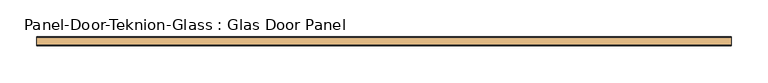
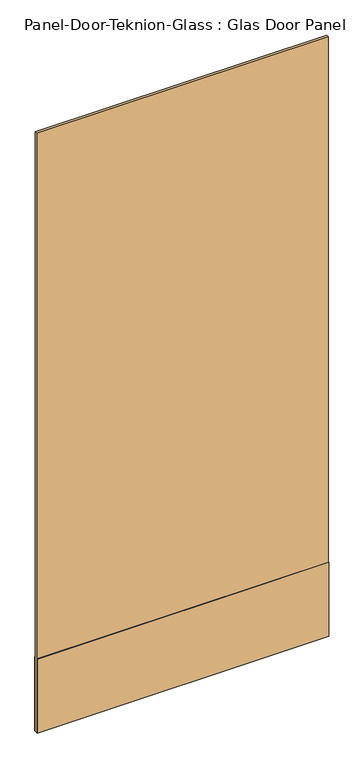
"""IFC4 building model written with IfcOpenShell, lengths in millimetres: door geometry, Panel-Door-Teknion-Glass : Glas Door Panel."""

import ifcopenshell
import ifcopenshell.guid

model = None  # the IFC model being written
_history = None  # IfcOwnerHistory: only IFC2X3 demands one
_inside = {}  # id of a spatial element -> (the spatial element, [elements in it])
_under = {}  # id of a project, library or spatial element -> (it, [spatial elements below it])
_declared = {}  # id of a project -> (the project, [libraries it declares])
_typed = {}  # id of a type object -> (the type object, [elements of that type])
_made_of = {}  # id of a material, layer set ... -> (it, [elements and type objects made of it])


def new_model(schema):
    """Start an empty IFC model of exactly this schema.

    Asked for "IFC4X3", IfcOpenShell would pick the latest addendum, in which some entities
    have other attributes; the version numbers below select the first issue.
    IFC2X3 requires an IfcOwnerHistory on every rooted entity: one is made here for all.
    """
    global model, _history
    if schema == "IFC4X3":
        model = ifcopenshell.file(schema_version=(4, 3, 0, 0))
    else:
        model = ifcopenshell.file(schema=schema)
    _inside.clear()
    _under.clear()
    _declared.clear()
    _typed.clear()
    _made_of.clear()
    _history = None
    if model.schema == "IFC2X3":
        org = make("IfcOrganization", Name="unknown")
        user = make(
            "IfcPersonAndOrganization",
            ThePerson=make("IfcPerson", FamilyName="unknown"),
            TheOrganization=org,
        )
        app = make(
            "IfcApplication",
            ApplicationDeveloper=org,
            Version="unknown",
            ApplicationFullName="unknown",
            ApplicationIdentifier="unknown",
        )
        _history = make(
            "IfcOwnerHistory",
            OwningUser=user,
            OwningApplication=app,
            ChangeAction="ADDED",
            CreationDate=0,
        )
    return model


def make(cls, **values):
    """One entity of the class cls with the attributes given. An attribute that is None is left unset."""
    return model.create_entity(
        cls, **{name: value for name, value in values.items() if value is not None}
    )


def rooted(cls, **values):
    """An entity with a GlobalId (a new one), such as an element, a storey or a relation."""
    return make(cls, GlobalId=ifcopenshell.guid.new(), OwnerHistory=_history, **values)


def si_unit(unit_type, name, prefix=None):
    """IfcSIUnit, for example si_unit("LENGTHUNIT", "METRE", prefix="MILLI")."""
    return make("IfcSIUnit", UnitType=unit_type, Prefix=prefix, Name=name)


def assignment(units):
    """IfcUnitAssignment: the units of a project."""
    return None if units is None else make("IfcUnitAssignment", Units=units)


def point(xyz):
    """IfcCartesianPoint."""
    return None if xyz is None else make("IfcCartesianPoint", Coordinates=xyz)


def direction(xyz):
    """IfcDirection."""
    return None if xyz is None else make("IfcDirection", DirectionRatios=xyz)


def frame(location, z_axis=None, x_axis=None):
    """IfcAxis2Placement3D, a coordinate frame: its origin and axes. An axis left out is left unset."""
    return make(
        "IfcAxis2Placement3D",
        Location=point(location),
        Axis=direction(z_axis),
        RefDirection=direction(x_axis),
    )


def origin():
    """The frame at (0, 0, 0) with its axes left unset."""
    return frame((0.0, 0.0, 0.0))


def place(relative_to, where):
    """IfcLocalPlacement: puts the frame where relative to a parent placement (None: the world)."""
    return make(
        "IfcLocalPlacement", PlacementRelTo=relative_to, RelativePlacement=where
    )


def context(
    kind, dimensions, precision=None, world=None, true_north=None, identifier=None
):
    """IfcGeometricRepresentationContext, for example the 3D "Model" context."""
    return make(
        "IfcGeometricRepresentationContext",
        ContextIdentifier=identifier,
        ContextType=kind,
        CoordinateSpaceDimension=dimensions,
        Precision=precision,
        WorldCoordinateSystem=world,
        TrueNorth=true_north,
    )


def project(units=None, contexts=None):
    """IfcProject with its units and contexts."""
    return rooted(
        "IfcProject",
        Name="project",
        RepresentationContexts=contexts,
        UnitsInContext=assignment(units),
    )


def spatial(cls, under=None, at=None, **own):
    """A site, building, storey or space (cls), placed at a placement, below another one or the project."""
    s = rooted(cls, ObjectPlacement=at, **own)
    if under is not None:
        _under.setdefault(under.id(), (under, []))[1].append(s)
    return s


def polyline(points):
    """IfcPolyline through the points."""
    return make("IfcPolyline", Points=[point(p) for p in points])


def outline(outer, holes=None, kind="AREA"):
    """IfcArbitraryClosedProfileDef: a profile drawn as a closed curve; with holes, ...WithVoids."""
    if holes is None:
        return make("IfcArbitraryClosedProfileDef", ProfileType=kind, OuterCurve=outer)
    return make(
        "IfcArbitraryProfileDefWithVoids",
        ProfileType=kind,
        OuterCurve=outer,
        InnerCurves=holes,
    )


def extrude(swept, where, along, depth):
    """IfcExtrudedAreaSolid: the profile swept, set in the frame where, extruded along a direction by depth."""
    return make(
        "IfcExtrudedAreaSolid",
        SweptArea=swept,
        Position=where,
        ExtrudedDirection=direction(along),
        Depth=depth,
    )


def shape(context_of_items, identifier, shape_type, items):
    """IfcShapeRepresentation: the items that make up one representation, for example the "Body"."""
    return make(
        "IfcShapeRepresentation",
        ContextOfItems=context_of_items,
        RepresentationIdentifier=identifier,
        RepresentationType=shape_type,
        Items=items,
    )


def source(mapping_origin, context_of_items, identifier, shape_type, items):
    """IfcRepresentationMap: a shape defined once, which mapped items show again and again."""
    return make(
        "IfcRepresentationMap",
        MappingOrigin=mapping_origin,
        MappedRepresentation=shape(context_of_items, identifier, shape_type, items),
    )


def transform(
    local_origin,
    x_axis=None,
    y_axis=None,
    z_axis=None,
    scale=None,
    scale2=None,
    scale3=None,
    uniform=True,
):
    """IfcCartesianTransformationOperator3D, or its non-uniform kind. x_axis, y_axis, z_axis: its Axis1, 2, 3."""
    if uniform:
        return make(
            "IfcCartesianTransformationOperator3D",
            Axis1=direction(x_axis),
            Axis2=direction(y_axis),
            LocalOrigin=point(local_origin),
            Scale=scale,
            Axis3=direction(z_axis),
        )
    return make(
        "IfcCartesianTransformationOperator3DnonUniform",
        Axis1=direction(x_axis),
        Axis2=direction(y_axis),
        LocalOrigin=point(local_origin),
        Scale=scale,
        Axis3=direction(z_axis),
        Scale2=scale2,
        Scale3=scale3,
    )


def mapped(mapping_source, mapping_target):
    """IfcMappedItem: shows the shape of a source again, moved by a transform."""
    return make(
        "IfcMappedItem", MappingSource=mapping_source, MappingTarget=mapping_target
    )


def made_of(thing, what):
    """Note that an element or type object is made of a material, layer set ...; save() writes the relation."""
    if what is not None:
        _made_of.setdefault(what.id(), (what, []))[1].append(thing)
    return thing


def element(
    cls,
    number,
    at=None,
    inside=None,
    cuts=None,
    type_object=None,
    material=None,
    context=None,
    identifier="Body",
    shape_type=None,
    held_by="IfcProductDefinitionShape",
    body=None,
    shapes=None,
    **own,
):
    """One element of the class cls, such as IfcWall. Its Tag is "e" and its number.

    at: its placement. inside: the storey or other place that contains it. cuts: it is an
    opening in that element (IfcRelVoidsElement). A single representation is given by context,
    identifier, shape_type and body (its items); several are given by shapes. held_by: the class
    of the entity that holds the representations. save() writes the other relations.
    """
    e = rooted(cls, Tag="e%d" % number, ObjectPlacement=at, **own)
    if body is not None:
        shapes = [shape(context, identifier, shape_type, body)]
    if shapes is not None:
        e.Representation = make(held_by, Representations=shapes)
    if inside is not None:
        _inside.setdefault(inside.id(), (inside, []))[1].append(e)
    if cuts is not None:
        rooted(
            "IfcRelVoidsElement", RelatingBuildingElement=cuts, RelatedOpeningElement=e
        )
    if type_object is not None:
        _typed.setdefault(type_object.id(), (type_object, []))[1].append(e)
    return made_of(e, material)


def aggregate(whole, parts):
    """IfcRelAggregates: a whole, such as a stair, and the parts it consists of."""
    return rooted("IfcRelAggregates", RelatingObject=whole, RelatedObjects=parts)


def save(model, path):
    """Write the relations noted so far, then the file.

    IfcRelAggregates (storeys below a building ...), IfcRelContainedInSpatialStructure (elements
    in a storey), IfcRelDefinesByType, IfcRelAssociatesMaterial and IfcRelDeclares: one each for
    every whole, place, type object, material and project.
    """
    for whole, parts in _under.values():
        aggregate(whole, parts)
    for where, things in _inside.values():
        rooted(
            "IfcRelContainedInSpatialStructure",
            RelatedElements=things,
            RelatingStructure=where,
        )
    for kind, things in _typed.values():
        rooted("IfcRelDefinesByType", RelatedObjects=things, RelatingType=kind)
    for what, things in _made_of.values():
        rooted("IfcRelAssociatesMaterial", RelatedObjects=things, RelatingMaterial=what)
    for by, libraries in _declared.values():
        rooted("IfcRelDeclares", RelatingContext=by, RelatedDefinitions=libraries)
    model.write(path)


def panel_door_teknion_glass_glas_door_panel_e6f0001c(model_context):
    return source(origin(), model_context, "Body", "SweptSolid", [
        extrude(outline(polyline([(473.0678563, -4.5085), (-473.0678562, -4.5085), (-473.0678562, 4.5085), (473.0678563, 4.5085), (473.0678563, -4.5085)])), frame((0.0, 0.0, 12.7), z_axis=(0.0, 0.0, 1.0), x_axis=(1.0, 0.0, 0.0)), (0.0, 0.0, 1.0), 2055.622),
        extrude(outline(polyline([(473.0678563, -6.1087), (-473.0678562, -6.1087), (-473.0678562, -4.5085), (473.0678563, -4.5085), (473.0678563, -6.1087)])), frame((0.0, 0.0, 12.7), z_axis=(0.0, 0.0, 1.0), x_axis=(1.0, 0.0, 0.0)), (0.0, 0.0, 1.0), 254.0),
        extrude(outline(polyline([(473.0678563, 4.5085), (-473.0678562, 4.5085), (-473.0678562, 6.1087), (473.0678563, 6.1087), (473.0678563, 4.5085)])), frame((0.0, 0.0, 12.7), z_axis=(0.0, 0.0, 1.0), x_axis=(1.0, 0.0, 0.0)), (0.0, 0.0, 1.0), 254.0),
    ])


if __name__ == "__main__":
    model = new_model("IFC4")
    model_context = context("Model", 3, world=origin())
    ifc_project = project(units=[si_unit("LENGTHUNIT", "METRE", prefix="MILLI")], contexts=[model_context])
    site = spatial("IfcSite", under=ifc_project)
    building = spatial("IfcBuilding", under=site)
    placement = place(None, origin())
    panel_door_teknion_glass_glas_door_panel_shape = panel_door_teknion_glass_glas_door_panel_e6f0001c(model_context)
    element("IfcDoor", 1, ObjectType="Panel-Door-Teknion-Glass : Glas Door Panel", at=placement, inside=building, context=model_context, shape_type="MappedRepresentation", body=[
        mapped(panel_door_teknion_glass_glas_door_panel_shape, transform((0.0, 0.0, 0.0), x_axis=(1.0, 0.0, 0.0), y_axis=(0.0, 1.0, 0.0), z_axis=(0.0, 0.0, 1.0))),
    ])
    save(model, "model.ifc")
